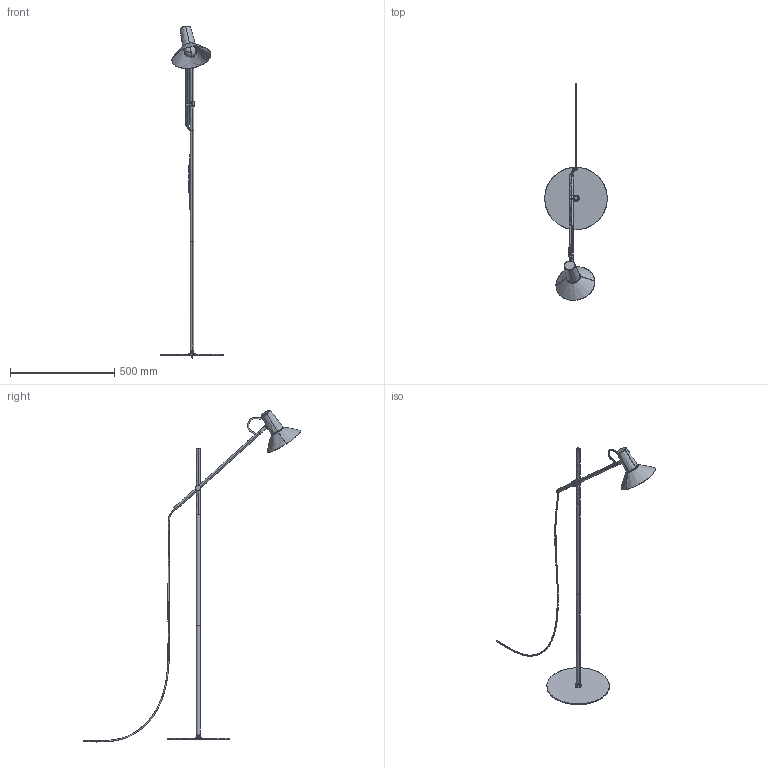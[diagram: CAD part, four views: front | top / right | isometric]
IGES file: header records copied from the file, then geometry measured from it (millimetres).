
Start section: SolidWorks IGES file using analytic representation for surfaces
Global section: file name: C:\Users\adrian\Desktop\Nueva Coleccion Septiembre 2026\HUDO\HUDO_P1366\HUDO_P1366.IGS; native system: SolidWorks 2023; preprocessor: SolidWorks 2023; author: adrian; date: 260616.170852; units: millimetre
Bounding box: 300 x 1043.97 x 1595.04 mm (x, y, z)
Surface area: 525473.2 mm2 (no closed solid volume)
Topology: 0 solids, 0 shells, 343 faces, 5370 edges, 5366 vertices
Faces by surface type: bspline 343
